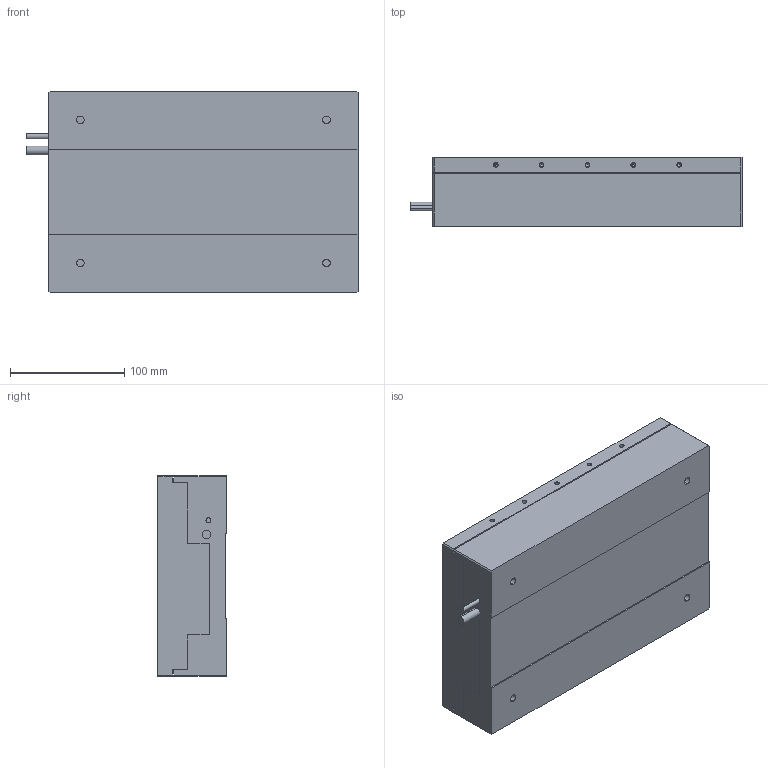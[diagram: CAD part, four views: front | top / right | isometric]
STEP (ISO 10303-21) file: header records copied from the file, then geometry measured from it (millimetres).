
FILE_DESCRIPTION (( 'STEP AP203' ), '1' );
FILE_NAME ('NPS-L-CB6-05x.STEP', '2019-09-11T05:19:09', ( '' ), ( '' ), 'SwSTEP 2.0', 'SolidWorks 2015', '' );
FILE_SCHEMA (( 'CONFIG_CONTROL_DESIGN' ));
Length unit declared in the file: millimetre
Products named in the file (3): NPS-L-CB6-05x_固定部; NPS-L-CB6-05x_移動部; NPS-L-CB6-05x
Assembly tree (2 placements, depth 2):
  NPS-L-CB6-05x
    NPS-L-CB6-05x_固定部
    NPS-L-CB6-05x_移動部
Bounding box: 290 x 60 x 175 mm (x, y, z)
Volume: 2796446 mm3; surface area: 285381.1 mm2
Topology: 2 solids, 2 shells, 216 faces, 492 edges, 308 vertices
Faces by surface type: cylinder 112, plane 80, cone 24
Entity records: 6281 total; most frequent: DIRECTION 1134, CARTESIAN_POINT 997, ORIENTED_EDGE 936, EDGE_CURVE 468, AXIS2_PLACEMENT_3D 445, VERTEX_POINT 308, EDGE_LOOP 276, VECTOR 244
